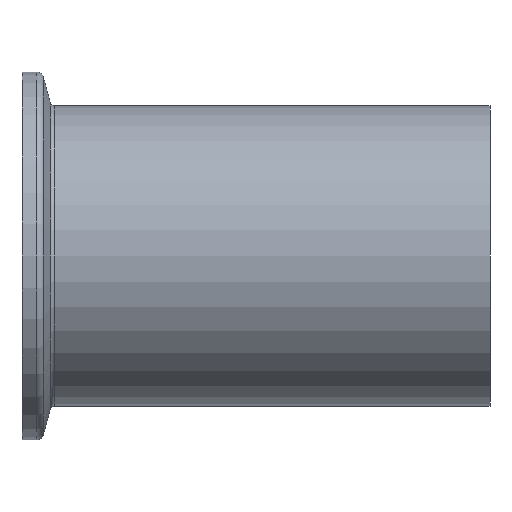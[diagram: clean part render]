
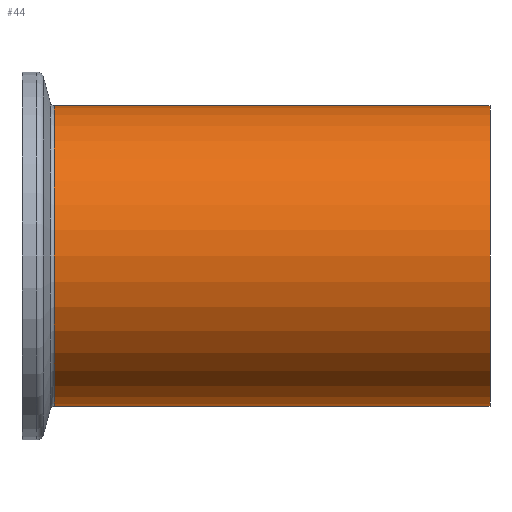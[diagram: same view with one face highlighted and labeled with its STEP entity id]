
A CAD part, front view. The second image highlights one B-rep face of the part: STEP entity #44.
In plain terms, the highlighted cylindrical face has radius 22.5 mm (diameter 45 mm), a full revolution.
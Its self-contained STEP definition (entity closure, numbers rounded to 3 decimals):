
#38=CYLINDRICAL_SURFACE('',#153,22.5);
#44=ADVANCED_FACE('',(#60,#61),#38,.T.);
#60=FACE_BOUND('',#80,.T.);
#61=FACE_BOUND('',#81,.T.);
#80=EDGE_LOOP('',(#100));
#81=EDGE_LOOP('',(#101));
#100=ORIENTED_EDGE('',*,*,#128,.F.);
#101=ORIENTED_EDGE('',*,*,#127,.T.);
#117=VERTEX_POINT('',#217);
#118=VERTEX_POINT('',#220);
#127=EDGE_CURVE('',#117,#117,#137,.T.);
#128=EDGE_CURVE('',#118,#118,#138,.T.);
#137=CIRCLE('',#150,22.5);
#138=CIRCLE('',#152,22.5);
#150=AXIS2_PLACEMENT_3D('',#216,#177,#178);
#152=AXIS2_PLACEMENT_3D('',#219,#181,#182);
#153=AXIS2_PLACEMENT_3D('',#221,#183,#184);
#177=DIRECTION('',(-1.,0.,0.));
#178=DIRECTION('',(0.,0.,1.));
#181=DIRECTION('',(-1.,0.,0.));
#182=DIRECTION('',(0.,0.,1.));
#183=DIRECTION('',(-1.,0.,0.));
#184=DIRECTION('',(0.,0.,1.));
#216=CARTESIAN_POINT('',(70.,0.,0.));
#217=CARTESIAN_POINT('',(70.,0.,22.5));
#219=CARTESIAN_POINT('',(4.8,0.,0.));
#220=CARTESIAN_POINT('',(4.8,0.,22.5));
#221=CARTESIAN_POINT('',(0.,0.,0.));
